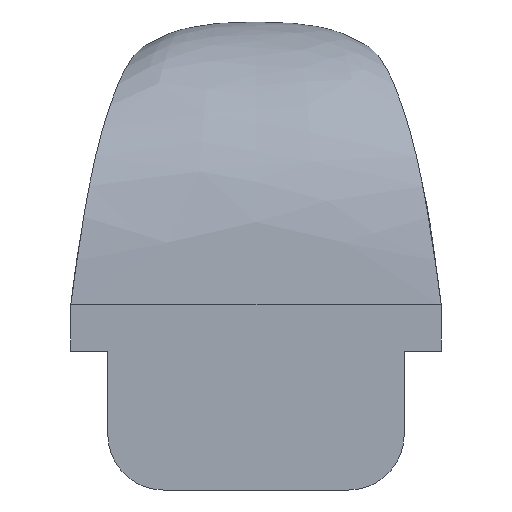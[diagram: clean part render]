
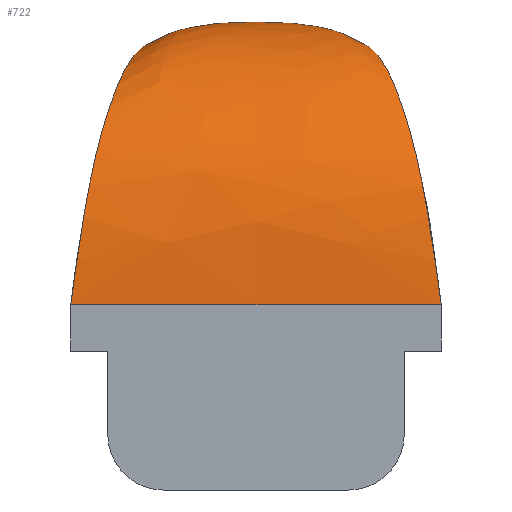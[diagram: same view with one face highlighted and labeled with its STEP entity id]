
A CAD part, front view. The second image highlights one B-rep face of the part: STEP entity #722.
In plain terms, the highlighted free-form (B-spline) face has degree [3, 3] with [6, 11] control points.
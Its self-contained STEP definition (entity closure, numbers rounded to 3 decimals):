
#19=B_SPLINE_CURVE_WITH_KNOTS('',3,(#1311,#1312,#1313,#1314,#1315,#1316,
#1317),.UNSPECIFIED.,.F.,.F.,(4,1,1,1,4),(0.,0.77,1.529,
2.288,3.055),.UNSPECIFIED.);
#20=B_SPLINE_CURVE_WITH_KNOTS('',3,(#1388,#1389,#1390,#1391,#1392,#1393,
#1394),.UNSPECIFIED.,.F.,.F.,(4,1,1,1,4),(0.,0.77,1.529,
2.288,3.055),.UNSPECIFIED.);
#23=B_SPLINE_SURFACE_WITH_KNOTS('',3,3,((#1319,#1320,#1321,#1322,#1323,
#1324,#1325,#1326,#1327,#1328,#1329),(#1330,#1331,#1332,#1333,#1334,#1335,
#1336,#1337,#1338,#1339,#1340),(#1341,#1342,#1343,#1344,#1345,#1346,#1347,
#1348,#1349,#1350,#1351),(#1352,#1353,#1354,#1355,#1356,#1357,#1358,#1359,
#1360,#1361,#1362),(#1363,#1364,#1365,#1366,#1367,#1368,#1369,#1370,#1371,
#1372,#1373),(#1374,#1375,#1376,#1377,#1378,#1379,#1380,#1381,#1382,#1383,
#1384)),.UNSPECIFIED.,.F.,.F.,.F.,(4,2,4),(4,2,1,1,1,2,4),(0.,0.5,1.),(0.,
0.136,0.252,0.501,0.749,
0.928,1.),.UNSPECIFIED.);
#86=FACE_OUTER_BOUND('',#123,.T.);
#123=EDGE_LOOP('',(#656,#657,#658,#659,#660,#661));
#198=LINE('',#1167,#273);
#199=LINE('',#1168,#274);
#273=VECTOR('',#962,10.);
#274=VECTOR('',#963,10.);
#292=CIRCLE('',#791,5.);
#293=CIRCLE('',#792,5.);
#327=VERTEX_POINT('',#1065);
#334=VERTEX_POINT('',#1081);
#355=VERTEX_POINT('',#1166);
#361=VERTEX_POINT('',#1310);
#362=VERTEX_POINT('',#1385);
#363=VERTEX_POINT('',#1387);
#453=EDGE_CURVE('',#355,#327,#198,.T.);
#454=EDGE_CURVE('',#334,#355,#199,.T.);
#462=EDGE_CURVE('',#361,#334,#19,.T.);
#464=EDGE_CURVE('',#361,#362,#292,.T.);
#465=EDGE_CURVE('',#363,#327,#20,.T.);
#466=EDGE_CURVE('',#362,#363,#293,.T.);
#656=ORIENTED_EDGE('',*,*,#464,.F.);
#657=ORIENTED_EDGE('',*,*,#462,.T.);
#658=ORIENTED_EDGE('',*,*,#454,.T.);
#659=ORIENTED_EDGE('',*,*,#453,.T.);
#660=ORIENTED_EDGE('',*,*,#465,.F.);
#661=ORIENTED_EDGE('',*,*,#466,.F.);
#722=ADVANCED_FACE('',(#86),#23,.F.);
#791=AXIS2_PLACEMENT_3D('',#1386,#976,#977);
#792=AXIS2_PLACEMENT_3D('',#1395,#978,#979);
#962=DIRECTION('',(1.,0.,0.));
#963=DIRECTION('',(1.,0.,0.));
#976=DIRECTION('center_axis',(0.,0.94,-0.342));
#977=DIRECTION('ref_axis',(1.,0.,0.));
#978=DIRECTION('center_axis',(0.,0.94,-0.342));
#979=DIRECTION('ref_axis',(1.,0.,0.));
#1065=CARTESIAN_POINT('',(10.,-6.25,2.5));
#1081=CARTESIAN_POINT('',(-10.,-6.25,2.5));
#1166=CARTESIAN_POINT('',(0.,-6.25,2.5));
#1167=CARTESIAN_POINT('',(10.,-6.25,2.5));
#1168=CARTESIAN_POINT('',(10.,-6.25,2.5));
#1310=CARTESIAN_POINT('',(-4.115,14.469,13.491));
#1311=CARTESIAN_POINT('Ctrl Pts',(-4.115,14.469,13.491));
#1312=CARTESIAN_POINT('Ctrl Pts',(-4.482,12.162,14.558));
#1313=CARTESIAN_POINT('Ctrl Pts',(-5.133,7.652,17.183));
#1314=CARTESIAN_POINT('Ctrl Pts',(-6.996,-0.302,
16.11));
#1315=CARTESIAN_POINT('Ctrl Pts',(-8.937,-5.855,10.281));
#1316=CARTESIAN_POINT('Ctrl Pts',(-9.652,-6.109,5.028));
#1317=CARTESIAN_POINT('Ctrl Pts',(-10.,-6.25,2.5));
#1319=CARTESIAN_POINT('Ctrl Pts',(-4.115,14.469,13.491));
#1320=CARTESIAN_POINT('Ctrl Pts',(-4.312,13.229,14.065));
#1321=CARTESIAN_POINT('Ctrl Pts',(-4.498,11.999,14.712));
#1322=CARTESIAN_POINT('Ctrl Pts',(-4.878,9.661,15.735));
#1323=CARTESIAN_POINT('Ctrl Pts',(-5.47,6.213,16.989));
#1324=CARTESIAN_POINT('Ctrl Pts',(-6.996,-0.302,
16.11));
#1325=CARTESIAN_POINT('Ctrl Pts',(-8.75,-5.321,10.841));
#1326=CARTESIAN_POINT('Ctrl Pts',(-9.434,-5.964,6.512));
#1327=CARTESIAN_POINT('Ctrl Pts',(-9.8,-6.17,3.958));
#1328=CARTESIAN_POINT('Ctrl Pts',(-9.9,-6.21,3.224));
#1329=CARTESIAN_POINT('Ctrl Pts',(-10.,-6.25,2.5));
#1330=CARTESIAN_POINT('Ctrl Pts',(-3.2,14.922,14.737));
#1331=CARTESIAN_POINT('Ctrl Pts',(-3.371,13.568,15.342));
#1332=CARTESIAN_POINT('Ctrl Pts',(-3.504,12.244,15.996));
#1333=CARTESIAN_POINT('Ctrl Pts',(-3.749,9.763,16.993));
#1334=CARTESIAN_POINT('Ctrl Pts',(-4.1,6.149,18.165));
#1335=CARTESIAN_POINT('Ctrl Pts',(-5.04,-0.467,
16.961));
#1336=CARTESIAN_POINT('Ctrl Pts',(-6.079,-5.435,11.24));
#1337=CARTESIAN_POINT('Ctrl Pts',(-6.381,-6.015,6.674));
#1338=CARTESIAN_POINT('Ctrl Pts',(-6.56,-6.188,4.009));
#1339=CARTESIAN_POINT('Ctrl Pts',(-6.611,-6.218,3.248));
#1340=CARTESIAN_POINT('Ctrl Pts',(-6.667,-6.25,2.5));
#1341=CARTESIAN_POINT('Ctrl Pts',(-1.616,15.209,15.523));
#1342=CARTESIAN_POINT('Ctrl Pts',(-1.671,13.871,16.008));
#1343=CARTESIAN_POINT('Ctrl Pts',(-1.736,12.535,16.498));
#1344=CARTESIAN_POINT('Ctrl Pts',(-1.869,10.047,17.399));
#1345=CARTESIAN_POINT('Ctrl Pts',(-2.078,6.261,18.21));
#1346=CARTESIAN_POINT('Ctrl Pts',(-2.485,-0.294,
16.646));
#1347=CARTESIAN_POINT('Ctrl Pts',(-2.93,-5.269,11.135));
#1348=CARTESIAN_POINT('Ctrl Pts',(-3.161,-6.249,6.643));
#1349=CARTESIAN_POINT('Ctrl Pts',(-3.275,-6.251,4.01));
#1350=CARTESIAN_POINT('Ctrl Pts',(-3.306,-6.249,3.254));
#1351=CARTESIAN_POINT('Ctrl Pts',(-3.333,-6.25,2.5));
#1352=CARTESIAN_POINT('Ctrl Pts',(1.616,15.209,15.523));
#1353=CARTESIAN_POINT('Ctrl Pts',(1.671,13.871,16.008));
#1354=CARTESIAN_POINT('Ctrl Pts',(1.736,12.535,16.498));
#1355=CARTESIAN_POINT('Ctrl Pts',(1.869,10.047,17.399));
#1356=CARTESIAN_POINT('Ctrl Pts',(2.078,6.261,18.21));
#1357=CARTESIAN_POINT('Ctrl Pts',(2.485,-0.294,16.646));
#1358=CARTESIAN_POINT('Ctrl Pts',(2.93,-5.269,11.135));
#1359=CARTESIAN_POINT('Ctrl Pts',(3.161,-6.249,6.643));
#1360=CARTESIAN_POINT('Ctrl Pts',(3.275,-6.251,4.01));
#1361=CARTESIAN_POINT('Ctrl Pts',(3.306,-6.249,3.254));
#1362=CARTESIAN_POINT('Ctrl Pts',(3.333,-6.25,2.5));
#1363=CARTESIAN_POINT('Ctrl Pts',(3.2,14.922,14.737));
#1364=CARTESIAN_POINT('Ctrl Pts',(3.371,13.568,15.342));
#1365=CARTESIAN_POINT('Ctrl Pts',(3.504,12.244,15.996));
#1366=CARTESIAN_POINT('Ctrl Pts',(3.749,9.763,16.993));
#1367=CARTESIAN_POINT('Ctrl Pts',(4.1,6.149,18.165));
#1368=CARTESIAN_POINT('Ctrl Pts',(5.04,-0.467,16.961));
#1369=CARTESIAN_POINT('Ctrl Pts',(6.079,-5.435,11.24));
#1370=CARTESIAN_POINT('Ctrl Pts',(6.381,-6.015,6.674));
#1371=CARTESIAN_POINT('Ctrl Pts',(6.56,-6.188,4.009));
#1372=CARTESIAN_POINT('Ctrl Pts',(6.611,-6.218,3.248));
#1373=CARTESIAN_POINT('Ctrl Pts',(6.667,-6.25,2.5));
#1374=CARTESIAN_POINT('Ctrl Pts',(4.115,14.469,13.491));
#1375=CARTESIAN_POINT('Ctrl Pts',(4.312,13.229,14.065));
#1376=CARTESIAN_POINT('Ctrl Pts',(4.498,11.999,14.712));
#1377=CARTESIAN_POINT('Ctrl Pts',(4.878,9.661,15.735));
#1378=CARTESIAN_POINT('Ctrl Pts',(5.47,6.213,16.989));
#1379=CARTESIAN_POINT('Ctrl Pts',(6.996,-0.302,16.11));
#1380=CARTESIAN_POINT('Ctrl Pts',(8.75,-5.321,10.841));
#1381=CARTESIAN_POINT('Ctrl Pts',(9.434,-5.964,6.512));
#1382=CARTESIAN_POINT('Ctrl Pts',(9.8,-6.17,3.958));
#1383=CARTESIAN_POINT('Ctrl Pts',(9.9,-6.21,3.224));
#1384=CARTESIAN_POINT('Ctrl Pts',(10.,-6.25,2.5));
#1385=CARTESIAN_POINT('',(0.,15.208,15.52));
#1386=CARTESIAN_POINT('Origin',(0.,13.498,10.822));
#1387=CARTESIAN_POINT('',(4.115,14.469,13.491));
#1388=CARTESIAN_POINT('Ctrl Pts',(4.115,14.469,13.491));
#1389=CARTESIAN_POINT('Ctrl Pts',(4.482,12.162,14.558));
#1390=CARTESIAN_POINT('Ctrl Pts',(5.133,7.652,17.183));
#1391=CARTESIAN_POINT('Ctrl Pts',(6.996,-0.302,16.11));
#1392=CARTESIAN_POINT('Ctrl Pts',(8.937,-5.855,10.281));
#1393=CARTESIAN_POINT('Ctrl Pts',(9.652,-6.109,5.028));
#1394=CARTESIAN_POINT('Ctrl Pts',(10.,-6.25,2.5));
#1395=CARTESIAN_POINT('Origin',(0.,13.498,10.822));
